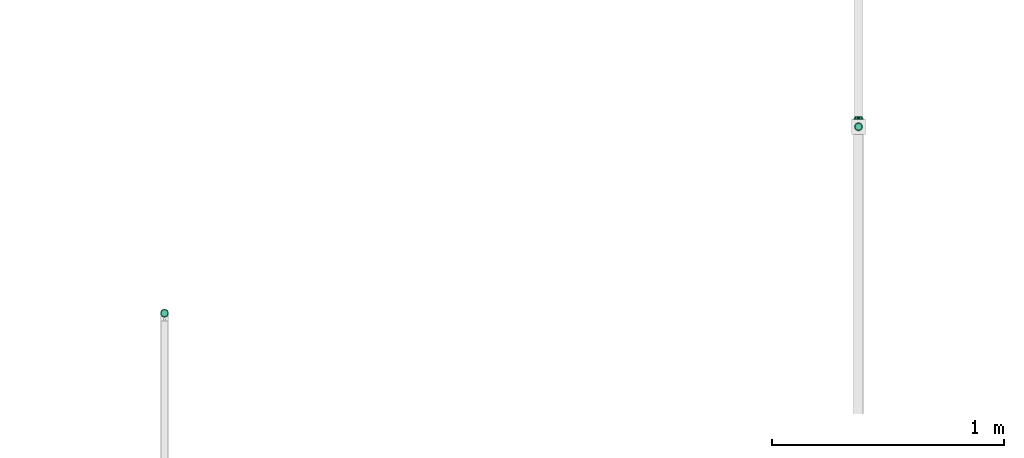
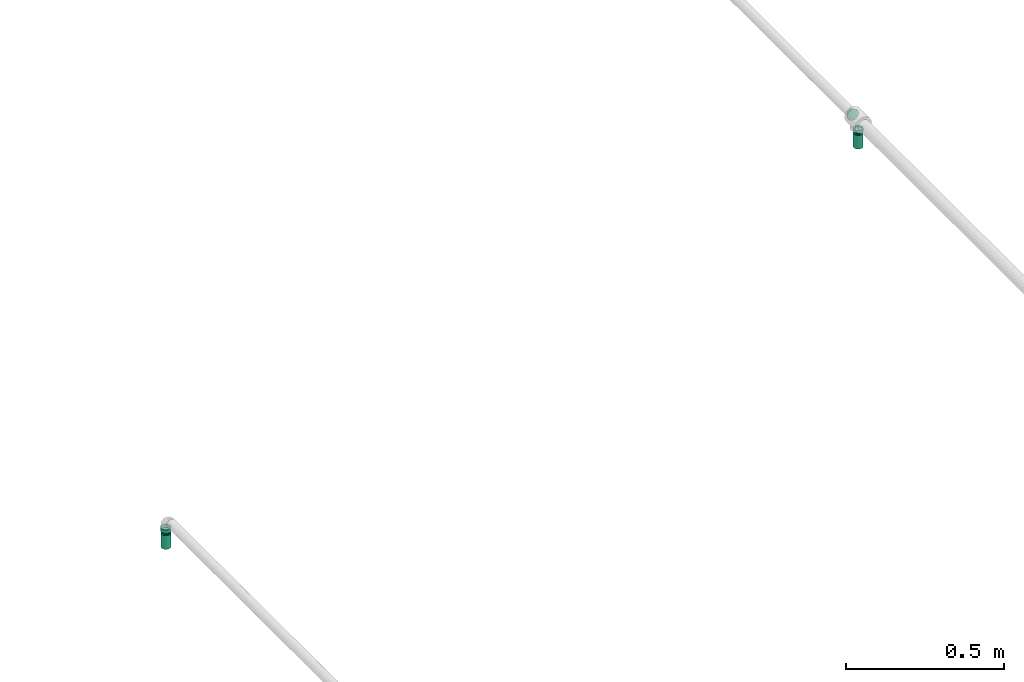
# One storey, part 5 of 17: 3 flow fittings, 2 flow segments, 2 flow terminals.
"""IFC2X3 building model written with IfcOpenShell, lengths in millimetres."""

from ifc_helpers import new_model, entity, si_unit, converted_unit, derived_unit, direction, frame, origin_with_axes, origin_2d_with_axis, place, context, subcontext, project, spatial, hollow_circle, extrude, open_shell, surface_model, source, transform, mapped, type_object, element, save


model = new_model("IFC2X3")

# Units and contexts
model_context = context("Model", 3, precision=0.01, world=frame((0.0, 4.29681676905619e-09, 0.0)), true_north=direction((4.01073788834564e-13, 1.0)))
plan_context = context("Plan", 3, precision=0.01, world=frame((0.0, 4.29681676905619e-09, 0.0)), true_north=direction((4.01073788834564e-13, 1.0)))
body_context = subcontext(model_context, "Body", "Model", "MODEL_VIEW")
ifc_project = project(units=[converted_unit("PLANEANGLEUNIT", "DEGREE", entity("IfcPositiveLengthMeasure", 0.0174532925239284), si_unit("PLANEANGLEUNIT", "RADIAN"), dimensions=[0, 0, 0, 0, 0, 0, 0]), si_unit("AREAUNIT", "SQUARE_METRE"), si_unit("LENGTHUNIT", "METRE", prefix="MILLI"), si_unit("MASSUNIT", "GRAM", prefix="KILO"), si_unit("POWERUNIT", "WATT"), si_unit("PRESSUREUNIT", "PASCAL"), si_unit("FORCEUNIT", "NEWTON", prefix="KILO"), si_unit("ELECTRICVOLTAGEUNIT", "VOLT"), si_unit("ELECTRICCURRENTUNIT", "AMPERE"), si_unit("THERMODYNAMICTEMPERATUREUNIT", "DEGREE_CELSIUS"), si_unit("TIMEUNIT", "SECOND"), si_unit("VOLUMEUNIT", "CUBIC_METRE"), derived_unit("LINEARVELOCITYUNIT", [(si_unit("LENGTHUNIT", "METRE"), 1), (si_unit("TIMEUNIT", "SECOND"), -1)]), derived_unit("VOLUMETRICFLOWRATEUNIT", [(si_unit("VOLUMEUNIT", "CUBIC_METRE"), 1), (si_unit("TIMEUNIT", "SECOND"), -1)]), derived_unit("THERMALTRANSMITTANCEUNIT", [(si_unit("POWERUNIT", "WATT"), 1), (si_unit("THERMODYNAMICTEMPERATUREUNIT", "KELVIN"), -1), (si_unit("AREAUNIT", "SQUARE_METRE"), -1)]), derived_unit("SOUNDPRESSUREUNIT", [(si_unit("PRESSUREUNIT", "PASCAL"), 1)])], contexts=[model_context, plan_context])

# Site, building, storey
site_placement = place(None, frame((0.0, -4.29681676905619e-09, 0.0), z_axis=(0.0, 0.0, 1.0), x_axis=(1.0, 0.0, 0.0)))
site = spatial("IfcSite", under=ifc_project, at=site_placement, Name="ENGM", CompositionType="ELEMENT")
building_placement = place(site_placement, frame((0.0, 4.29681676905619e-09, 0.0), z_axis=(0.0, 0.0, 1.0), x_axis=(1.0, 0.0, 0.0)))
building = spatial("IfcBuilding", under=site, at=building_placement, Name="TH", CompositionType="ELEMENT")
storey_placement = place(building_placement, frame((0.0, 0.0, 205200.0), z_axis=(0.0, 0.0, 1.0), x_axis=(1.0, 0.0, 0.0)))
storey = spatial("IfcBuildingStorey", under=building, at=storey_placement, Name="Nivå D + 1,2 m", CompositionType="ELEMENT", Elevation=205200.0)

# Flow fittings
pipe_fitting_type = type_object("IfcPipeFittingType", Name="magi_pipe_fe_reducer_centric_short_NOR", PredefinedType="TRANSITION")
shared_shape_1 = source(origin_with_axes(), body_context, "Body", "SurfaceModel", [
    surface_model("IfcShellBasedSurfaceModel", [(14.4, 5.35, -9.26647), (14.4, 0.0, -10.7), (14.4, 2.76936, -10.33541), (14.4, 10.33541, -2.76936), (14.4, 7.56604, -7.56604), (14.4, 9.26647, -5.35), (14.4, -5.35, -9.26647), (14.4, -2.76936, -10.33541), (14.4, -7.56604, -7.56604), (14.4, -10.33541, -2.76936), (14.4, -9.26647, -5.35), (14.4, 10.33541, 2.76936), (14.4, 9.26647, 5.35), (14.4, 7.56604, 7.56604), (14.4, 2.76936, 10.33541), (14.4, 5.35, 9.26647), (14.4, -7.56604, 7.56604), (14.4, -2.76936, 10.33541), (14.4, -5.35, 9.26647), (12.4, 7.56604, 7.56604), (12.4, 9.26647, 5.35), (12.4, 10.33541, 2.76936), (12.4, -2.76936, 10.33541), (12.4, -7.56604, 7.56604), (12.4, -5.35, 9.26647), (12.4, -10.33541, 2.76936), (12.4, -9.26647, 5.35), (12.4, 0.0, 10.7), (12.4, -10.33541, -2.76936), (12.4, -10.7, 0.0), (12.4, -5.35, -9.26647), (12.4, 0.0, -10.7), (12.4, -2.76936, -10.33541), (12.4, 2.76936, -10.33541), (12.4, 10.33541, -2.76936), (12.4, 10.7, 0.0), (12.4, -9.26647, -5.35), (12.4, -7.56604, -7.56604), (14.4, -10.7, 0.0), (12.4, 5.35, -9.26647), (12.4, 7.56604, -7.56604), (12.4, 9.26647, -5.35), (14.4, 10.7, 0.0), (12.4, 5.35, 9.26647), (12.4, 2.76936, 10.33541), (14.4, 0.0, 10.7), (14.4, -9.26647, 5.35), (14.4, -10.33541, 2.76936), (-2.0, 11.9501, 11.9501), (-2.0, 0.0, 16.9), (-2.0, 4.37404, 16.32415), (-2.0, 8.45, 14.63583), (-2.0, 14.63583, 8.45), (-2.0, 16.32415, 4.37404), (-2.0, -16.32415, 4.37404), (-2.0, -8.45, 14.63583), (-2.0, -14.63583, 8.45), (-2.0, -11.9501, 11.9501), (-2.0, -4.37404, 16.32415), (-2.0, -16.32415, -4.37404), (-2.0, -16.9, 0.0), (-2.0, -8.45, -14.63583), (-2.0, 16.32415, -4.37404), (-2.0, 11.9501, -11.9501), (-2.0, 14.63583, -8.45), (-2.0, 8.45, -14.63583), (-2.0, 4.37404, -16.32415), (-2.0, 0.0, -16.9), (-2.0, -11.9501, -11.9501), (-2.0, -14.63583, -8.45), (-2.0, -4.37404, -16.32415), (-2.0, 16.9, 0.0), (0.0, 4.37404, -16.32415), (0.0, 8.45, -14.63583), (0.0, 11.9501, -11.9501), (0.0, 0.0, -16.9), (0.0, 16.32415, -4.37404), (0.0, 16.32415, 4.37404), (0.0, 14.63583, -8.45), (0.0, -8.45, -14.63583), (0.0, -4.37404, -16.32415), (0.0, -11.9501, -11.9501), (0.0, -16.32415, -4.37404), (0.0, -14.63583, -8.45), (0.0, -16.32415, 4.37404), (0.0, 16.9, 0.0), (0.0, 14.63583, 8.45), (0.0, 11.9501, 11.9501), (0.0, 4.37404, 16.32415), (0.0, 8.45, 14.63583), (0.0, 0.0, 16.9), (0.0, -14.63583, 8.45), (0.0, -16.9, 0.0), (0.0, -8.45, 14.63583), (0.0, -11.9501, 11.9501), (0.0, -4.37404, 16.32415), (12.4, 9.3625, -2.31662), (0.0, 14.42505, -5.97505), (0.0, 15.66253, -2.98753), (12.4, -6.6875, -6.94985), (0.0, -13.18758, -8.96258), (0.0, 2.98753, -15.66253), (12.4, 0.0, -9.26647), (12.4, 6.6875, -6.94985), (0.0, 8.96258, -13.18758), (12.4, -9.3625, -2.31662), (0.0, -15.66253, -2.98753), (0.0, -14.42505, -5.97505), (0.0, 5.97505, -14.42505), (0.0, -2.98753, -15.66253), (0.0, -8.96258, -13.18758), (0.0, 13.18758, -8.96258), (12.4, 8.025, -4.63324), (12.4, -2.675, -9.26647), (12.4, 2.675, -9.26647), (0.0, -5.97505, -14.42505), (12.4, -8.025, -4.63324), (12.4, -9.3625, 2.31662), (0.0, -14.42505, 5.97505), (0.0, -15.66253, 2.98753), (12.4, 6.6875, 6.94985), (0.0, 13.18758, 8.96258), (0.0, -2.98753, 15.66253), (12.4, 0.0, 9.26647), (12.4, -6.6875, 6.94985), (0.0, -8.96258, 13.18758), (12.4, 9.3625, 2.31662), (0.0, 15.66253, 2.98753), (0.0, 14.42505, 5.97505), (0.0, -5.97505, 14.42505), (0.0, 2.98753, 15.66253), (0.0, 8.96258, 13.18758), (0.0, -13.18758, 8.96258), (12.4, -8.025, 4.63324), (12.4, 2.675, 9.26647), (12.4, -2.675, 9.26647), (0.0, 5.97505, 14.42505), (12.4, 8.025, 4.63324)], [open_shell([[[0, 1, 2]], [[3, 0, 4]], [[3, 4, 5]], [[1, 6, 7]], [[1, 0, 6]], [[8, 9, 10]], [[9, 8, 6]], [[11, 12, 13]], [[14, 13, 15]], [[16, 17, 18]], [[19, 20, 21]], [[22, 23, 24]], [[23, 22, 25]], [[23, 25, 26]], [[22, 27, 25]], [[25, 28, 29]], [[30, 31, 32]], [[30, 28, 33]], [[33, 31, 30]], [[34, 21, 35]], [[28, 9, 29]], [[36, 10, 28]], [[6, 37, 30]], [[36, 37, 8]], [[7, 30, 32]], [[28, 10, 9]], [[9, 38, 29]], [[7, 6, 30]], [[8, 37, 6]], [[8, 10, 36]], [[1, 7, 32]], [[32, 31, 1]], [[33, 2, 31]], [[39, 0, 33]], [[5, 40, 41]], [[39, 40, 4]], [[3, 41, 34]], [[39, 4, 0]], [[0, 2, 33]], [[42, 3, 34]], [[5, 41, 3]], [[5, 4, 40]], [[35, 42, 34]], [[31, 2, 1]], [[21, 11, 35]], [[20, 12, 21]], [[15, 19, 43]], [[20, 19, 13]], [[14, 43, 44]], [[21, 12, 11]], [[11, 42, 35]], [[14, 15, 43]], [[13, 19, 15]], [[13, 12, 20]], [[45, 14, 44]], [[44, 27, 45]], [[22, 17, 27]], [[24, 18, 22]], [[46, 23, 26]], [[24, 23, 16]], [[47, 26, 25]], [[24, 16, 18]], [[18, 17, 22]], [[38, 47, 25]], [[46, 26, 47]], [[46, 16, 23]], [[29, 38, 25]], [[27, 17, 45]], [[48, 49, 50]], [[48, 50, 51]], [[48, 52, 53]], [[48, 53, 49]], [[49, 53, 54]], [[55, 56, 57]], [[55, 58, 49]], [[56, 55, 49]], [[49, 54, 56]], [[54, 59, 60]], [[54, 53, 61]], [[53, 62, 63]], [[63, 62, 64]], [[63, 65, 66]], [[61, 53, 63]], [[67, 63, 66]], [[59, 68, 69]], [[68, 59, 61]], [[61, 67, 70]], [[59, 54, 61]], [[63, 67, 61]], [[53, 71, 62]], [[72, 73, 74]], [[75, 72, 74]], [[74, 76, 77]], [[76, 74, 78]], [[74, 77, 79]], [[75, 79, 80]], [[75, 74, 79]], [[81, 82, 83]], [[82, 81, 79]], [[79, 84, 82]], [[77, 76, 85]], [[77, 86, 87]], [[77, 87, 88]], [[88, 84, 79]], [[88, 87, 89]], [[84, 88, 90]], [[90, 91, 84]], [[92, 82, 84]], [[91, 93, 94]], [[91, 90, 93]], [[93, 90, 95]], [[79, 77, 88]], [[59, 82, 60]], [[69, 83, 59]], [[79, 68, 61]], [[69, 68, 81]], [[80, 61, 70]], [[59, 83, 82]], [[82, 92, 60]], [[80, 79, 61]], [[81, 68, 79]], [[81, 83, 69]], [[75, 80, 70]], [[70, 67, 75]], [[66, 72, 67]], [[65, 73, 66]], [[78, 63, 64]], [[65, 63, 74]], [[76, 64, 62]], [[65, 74, 73]], [[73, 72, 66]], [[85, 76, 62]], [[78, 64, 76]], [[78, 74, 63]], [[71, 85, 62]], [[67, 72, 75]], [[53, 77, 71]], [[52, 86, 53]], [[89, 48, 51]], [[52, 48, 87]], [[88, 51, 50]], [[53, 86, 77]], [[77, 85, 71]], [[88, 89, 51]], [[87, 48, 89]], [[87, 86, 52]], [[90, 88, 50]], [[50, 49, 90]], [[58, 95, 49]], [[55, 93, 58]], [[91, 57, 56]], [[55, 57, 94]], [[84, 56, 54]], [[55, 94, 93]], [[93, 95, 58]], [[92, 84, 54]], [[91, 56, 84]], [[91, 94, 57]], [[60, 92, 54]], [[49, 95, 90]], [[43, 24, 35]], [[35, 24, 30]], [[30, 39, 35]], [[30, 24, 29]], [[87, 74, 92]], [[75, 92, 74]], [[81, 92, 75]], [[74, 87, 85]], [[96, 97, 98]], [[81, 99, 100]], [[101, 102, 75]], [[98, 85, 35]], [[74, 103, 104]], [[104, 103, 39]], [[105, 106, 107]], [[39, 108, 104]], [[102, 109, 75]], [[110, 99, 81]], [[35, 96, 98]], [[103, 111, 112]], [[109, 102, 113]], [[29, 92, 106]], [[102, 101, 114]], [[110, 115, 30]], [[96, 112, 97]], [[107, 116, 105]], [[29, 106, 105]], [[113, 115, 109]], [[30, 115, 113]], [[116, 107, 100]], [[108, 39, 114]], [[111, 103, 74]], [[111, 97, 112]], [[99, 110, 30]], [[116, 100, 99]], [[101, 108, 114]], [[117, 118, 119]], [[87, 120, 121]], [[122, 123, 90]], [[119, 92, 29]], [[94, 124, 125]], [[125, 124, 24]], [[126, 127, 128]], [[24, 129, 125]], [[123, 130, 90]], [[131, 120, 87]], [[29, 117, 119]], [[124, 132, 133]], [[130, 123, 134]], [[35, 85, 127]], [[123, 122, 135]], [[131, 136, 43]], [[117, 133, 118]], [[128, 137, 126]], [[35, 127, 126]], [[134, 136, 130]], [[43, 136, 134]], [[137, 128, 121]], [[129, 24, 135]], [[132, 124, 94]], [[132, 118, 133]], [[120, 131, 43]], [[137, 121, 120]], [[122, 129, 135]], [[6, 0, 3]], [[46, 6, 3]], [[6, 46, 9]], [[11, 3, 42]], [[3, 13, 46]], [[14, 45, 13]], [[46, 13, 45]], [[9, 47, 38]], [[46, 47, 9]], [[17, 16, 46]], [[45, 17, 46]], [[3, 11, 13]], [[27, 44, 43]], [[27, 43, 19]], [[27, 19, 25]], [[34, 25, 19]], [[34, 19, 21]], [[28, 25, 34]], [[33, 34, 41]], [[40, 39, 33]], [[40, 33, 41]], [[28, 34, 33]], [[28, 37, 36]], [[37, 28, 30]], [[90, 87, 92]], [[92, 94, 90]]])]),
])
for number, where, z_axis, x_axis, name in (
    (1, (899432.08103, 477870.89813, 4399.29618), (0.0, -1.0, 0.0), (0.0, 0.0, -1.0), "magi_pipe_fe_reducer_centric_short_NOR"),
    (2, (902429.75707, 478676.11818, 4409.98869), (0.0, -1.0, 0.0), (0.0, 0.0, -1.0), "magi_pipe_fe_reducer_centric_short_NOR"),
):
    element("IfcFlowFitting", number, at=place(storey_placement, frame(where, z_axis=z_axis, x_axis=x_axis)), inside=storey, type_object=pipe_fitting_type, Name=name, context=body_context, shape_type="MappedRepresentation", body=[
        mapped(shared_shape_1, transform((0.0, 0.0, 0.0), scale=1.0)),
    ])
shared_shape_2 = source(origin_with_axes(), body_context, "Body", "SurfaceModel", [
    surface_model("IfcShellBasedSurfaceModel", [(10.6, 4.37404, -16.32415), (10.6, 8.45, -14.63583), (10.6, 11.9501, -11.9501), (10.6, -8.45, -14.63583), (10.6, 16.32415, -4.37404), (10.6, 16.32415, 4.37404), (10.6, 14.63583, -8.45), (10.6, 0.0, -16.9), (10.6, -4.37404, -16.32415), (10.6, -11.9501, -11.9501), (10.6, -16.32415, -4.37404), (10.6, -14.63583, -8.45), (10.6, -16.32415, 4.37404), (10.6, 16.9, 0.0), (10.6, 14.63583, 8.45), (10.6, 11.9501, 11.9501), (10.6, 4.37404, 16.32415), (10.6, 8.45, 14.63583), (10.6, 0.0, 16.9), (10.6, -14.63583, 8.45), (10.6, -16.9, 0.0), (10.6, -8.45, 14.63583), (10.6, -11.9501, 11.9501), (10.6, -4.37404, 16.32415), (8.6, 4.37404, 16.32415), (8.6, -14.63583, 8.45), (8.6, 0.0, 16.9), (8.6, 16.32415, 4.37404), (8.6, 8.45, 14.63583), (8.6, 11.9501, 11.9501), (8.6, 14.63583, 8.45), (8.6, -8.45, 14.63583), (8.6, -11.9501, 11.9501), (8.6, -4.37404, 16.32415), (8.6, -16.32415, 4.37404), (8.6, -16.32415, -4.37404), (8.6, -16.9, 0.0), (8.6, -8.45, -14.63583), (8.6, 16.32415, -4.37404), (8.6, 11.9501, -11.9501), (8.6, 14.63583, -8.45), (8.6, 8.45, -14.63583), (8.6, 4.37404, -16.32415), (8.6, 0.0, -16.9), (8.6, -11.9501, -11.9501), (8.6, -14.63583, -8.45), (8.6, -4.37404, -16.32415), (8.6, 16.9, 0.0), (-2.0, 0.0, 21.2), (-2.0, 5.48696, 20.47763), (-2.0, 10.6, 18.35974), (-2.0, 14.99066, 14.99066), (-2.0, 18.35974, 10.6), (-2.0, 20.47763, 5.48696), (-2.0, -21.2, 0.0), (-2.0, -14.99066, -14.99066), (-2.0, -5.48696, 20.47763), (-2.0, -14.99066, 14.99066), (-2.0, -10.6, 18.35974), (-2.0, -18.35974, 10.6), (-2.0, -20.47763, 5.48696), (-2.0, 20.47763, -5.48696), (-2.0, 10.6, -18.35974), (-2.0, 14.99066, -14.99066), (-2.0, 18.35974, -10.6), (-2.0, 5.48696, -20.47763), (-2.0, 0.0, -21.2), (-2.0, -18.35974, -10.6), (-2.0, -20.47763, -5.48696), (-2.0, -10.6, -18.35974), (-2.0, -5.48696, -20.47763), (-2.0, 21.2, 0.0), (0.0, 10.6, -18.35974), (0.0, 0.0, -21.2), (0.0, 5.48696, -20.47763), (0.0, 20.47763, -5.48696), (0.0, 14.99066, -14.99066), (0.0, -21.2, 0.0), (0.0, -14.99066, -14.99066), (0.0, 18.35974, -10.6), (0.0, -10.6, -18.35974), (0.0, -5.48696, -20.47763), (0.0, -18.35974, -10.6), (0.0, -20.47763, -5.48696), (0.0, -18.35974, 10.6), (0.0, 21.2, 0.0), (0.0, 20.47763, 5.48696), (0.0, 18.35974, 10.6), (0.0, 14.99066, 14.99066), (0.0, 0.0, 21.2), (0.0, 10.6, 18.35974), (0.0, 5.48696, 20.47763), (0.0, -14.99066, 14.99066), (0.0, -20.47763, 5.48696), (0.0, -5.48696, 20.47763), (0.0, -10.6, 18.35974), (0.0, 6.55116, 20.1624), (0.0, 17.15116, 12.46105), (0.0, -17.15116, 12.46105), (0.0, -6.55116, 20.1624), (0.0, 6.55116, -20.1624), (0.0, 17.15116, -12.46105), (0.0, -6.55116, -20.1624), (0.0, -17.15116, -12.46105), (8.6, -13.18758, -8.96258), (0.0, 11.85116, -16.31172), (0.0, 14.50116, -14.38638), (8.6, -14.42505, -5.97505), (0.0, -19.17558, -6.23052), (0.0, -18.16337, -9.34579), (8.6, 5.97505, -14.42505), (8.6, 14.42505, -5.97505), (0.0, 19.17558, -6.23052), (0.0, 0.0, -20.1624), (8.6, 2.98753, -15.66253), (8.6, 13.18758, -8.96258), (8.6, -2.98753, -15.66253), (8.6, 15.66253, -2.98753), (8.6, -15.66253, -2.98753), (0.0, -11.85116, -16.31172), (8.6, -5.97505, -14.42505), (8.6, -8.96258, -13.18758), (8.6, 8.96258, -13.18758), (8.6, 13.18758, 8.96258), (0.0, -11.85116, 16.31172), (0.0, -14.50116, 14.38638), (8.6, 14.42505, 5.97505), (0.0, 19.17558, 6.23052), (0.0, 18.16337, 9.34579), (8.6, -5.97505, 14.42505), (8.6, -14.42505, 5.97505), (0.0, -19.17558, 6.23052), (0.0, 0.0, 20.1624), (8.6, -2.98753, 15.66253), (8.6, -13.18758, 8.96258), (8.6, 2.98753, 15.66253), (8.6, -15.66253, 2.98753), (8.6, 15.66253, 2.98753), (0.0, 11.85116, 16.31172), (8.6, 5.97505, 14.42505), (8.6, 8.96258, 13.18758), (8.6, -8.96258, 13.18758)], [open_shell([[[0, 1, 2]], [[3, 0, 2]], [[2, 4, 5]], [[4, 2, 6]], [[2, 5, 3]], [[7, 3, 8]], [[7, 0, 3]], [[9, 10, 11]], [[10, 9, 3]], [[3, 12, 10]], [[5, 4, 13]], [[5, 14, 15]], [[5, 15, 16]], [[16, 12, 3]], [[16, 15, 17]], [[12, 16, 18]], [[18, 19, 12]], [[20, 10, 12]], [[19, 21, 22]], [[19, 18, 21]], [[21, 18, 23]], [[3, 5, 16]], [[24, 25, 26]], [[27, 24, 28]], [[29, 30, 27]], [[29, 27, 28]], [[25, 24, 27]], [[31, 25, 32]], [[31, 33, 26]], [[26, 25, 31]], [[34, 25, 27]], [[34, 35, 36]], [[34, 27, 37]], [[27, 38, 39]], [[39, 38, 40]], [[39, 41, 42]], [[37, 27, 39]], [[42, 43, 39]], [[35, 44, 45]], [[44, 35, 37]], [[37, 43, 46]], [[35, 34, 37]], [[39, 43, 37]], [[38, 27, 47]], [[35, 10, 36]], [[45, 11, 35]], [[3, 44, 37]], [[45, 44, 9]], [[8, 37, 46]], [[35, 11, 10]], [[10, 20, 36]], [[8, 3, 37]], [[9, 44, 3]], [[9, 11, 45]], [[7, 8, 46]], [[46, 43, 7]], [[42, 0, 43]], [[41, 1, 42]], [[6, 39, 40]], [[41, 39, 2]], [[4, 40, 38]], [[41, 2, 1]], [[1, 0, 42]], [[13, 4, 38]], [[6, 40, 4]], [[6, 2, 39]], [[47, 13, 38]], [[43, 0, 7]], [[27, 5, 47]], [[30, 14, 27]], [[17, 29, 28]], [[30, 29, 15]], [[16, 28, 24]], [[27, 14, 5]], [[5, 13, 47]], [[16, 17, 28]], [[15, 29, 17]], [[15, 14, 30]], [[18, 16, 24]], [[24, 26, 18]], [[33, 23, 26]], [[31, 21, 33]], [[19, 32, 25]], [[31, 32, 22]], [[12, 25, 34]], [[31, 22, 21]], [[21, 23, 33]], [[20, 12, 34]], [[19, 25, 12]], [[19, 22, 32]], [[36, 20, 34]], [[26, 23, 18]], [[48, 49, 50]], [[48, 50, 51]], [[51, 52, 53]], [[51, 53, 48]], [[54, 48, 55]], [[56, 57, 58]], [[56, 48, 57]], [[59, 54, 60]], [[57, 48, 59]], [[48, 54, 59]], [[48, 53, 55]], [[53, 61, 62]], [[63, 61, 64]], [[55, 53, 62]], [[62, 61, 63]], [[65, 66, 62]], [[54, 67, 68]], [[55, 67, 54]], [[69, 66, 70]], [[69, 55, 62]], [[66, 69, 62]], [[61, 53, 71]], [[72, 73, 74]], [[75, 72, 76]], [[77, 78, 72]], [[75, 76, 79]], [[75, 77, 72]], [[73, 80, 81]], [[73, 72, 80]], [[82, 77, 83]], [[80, 72, 78]], [[82, 78, 77]], [[84, 75, 85]], [[86, 87, 88]], [[86, 88, 89]], [[90, 91, 89]], [[90, 89, 88]], [[86, 89, 92]], [[77, 84, 93]], [[75, 84, 77]], [[92, 94, 95]], [[84, 86, 92]], [[89, 94, 92]], [[84, 85, 86]], [[68, 83, 54]], [[67, 82, 68]], [[80, 55, 69]], [[67, 55, 78]], [[81, 69, 70]], [[68, 82, 83]], [[83, 77, 54]], [[81, 80, 69]], [[78, 55, 80]], [[78, 82, 67]], [[73, 81, 70]], [[70, 66, 73]], [[65, 74, 66]], [[62, 72, 65]], [[79, 63, 64]], [[62, 63, 76]], [[75, 64, 61]], [[62, 76, 72]], [[72, 74, 65]], [[85, 75, 61]], [[79, 64, 75]], [[79, 76, 63]], [[71, 85, 61]], [[66, 74, 73]], [[53, 86, 71]], [[52, 87, 53]], [[90, 51, 50]], [[52, 51, 88]], [[91, 50, 49]], [[53, 87, 86]], [[86, 85, 71]], [[91, 90, 50]], [[88, 51, 90]], [[88, 87, 52]], [[89, 91, 49]], [[49, 48, 89]], [[56, 94, 48]], [[58, 95, 56]], [[84, 57, 59]], [[58, 57, 92]], [[93, 59, 60]], [[58, 92, 95]], [[95, 94, 56]], [[77, 93, 60]], [[84, 59, 93]], [[84, 92, 57]], [[54, 77, 60]], [[48, 94, 89]], [[26, 32, 29]], [[47, 29, 32]], [[32, 43, 47]], [[43, 32, 44]], [[39, 47, 43]], [[44, 32, 36]], [[96, 97, 98]], [[96, 98, 99]], [[98, 97, 77]], [[97, 100, 77]], [[100, 97, 101]], [[77, 102, 103]], [[77, 100, 102]], [[101, 97, 85]], [[103, 44, 104]], [[39, 105, 106]], [[107, 108, 109]], [[105, 110, 100]], [[39, 106, 101]], [[111, 101, 112]], [[113, 114, 43]], [[101, 111, 115]], [[113, 116, 102]], [[85, 117, 112]], [[77, 118, 36]], [[44, 103, 119]], [[119, 120, 121]], [[77, 108, 118]], [[116, 113, 43]], [[100, 110, 114]], [[116, 120, 102]], [[100, 114, 113]], [[122, 110, 105]], [[117, 85, 47]], [[107, 118, 108]], [[103, 104, 109]], [[104, 107, 109]], [[39, 101, 115]], [[120, 119, 102]], [[121, 44, 119]], [[117, 111, 112]], [[105, 39, 122]], [[97, 29, 123]], [[32, 124, 125]], [[126, 127, 128]], [[124, 129, 99]], [[32, 125, 98]], [[130, 98, 131]], [[132, 133, 26]], [[98, 130, 134]], [[132, 135, 96]], [[77, 136, 131]], [[85, 137, 47]], [[29, 97, 138]], [[138, 139, 140]], [[85, 127, 137]], [[135, 132, 26]], [[99, 129, 133]], [[135, 139, 96]], [[99, 133, 132]], [[141, 129, 124]], [[136, 77, 36]], [[126, 137, 127]], [[97, 123, 128]], [[123, 126, 128]], [[32, 98, 134]], [[139, 138, 96]], [[140, 29, 138]], [[136, 130, 131]], [[124, 32, 141]]])]),
])
flow_fitting_placement = place(storey_placement, frame((902429.75707, 478709.91818, 4450.0), z_axis=(0.0, 0.0, 1.0), x_axis=(0.0, 1.0, 0.0)))
element("IfcFlowFitting", 3, at=flow_fitting_placement, inside=storey, type_object=pipe_fitting_type, Name="magi_pipe_fe_reducer_centric_short_NOR", context=body_context, shape_type="MappedRepresentation", body=[
    mapped(shared_shape_2, transform((0.0, 0.0, 0.0), scale=1.0)),
])

# Flow segments
pipe_segment_type = type_object("IfcPipeSegmentType", Name="Stålrør normaltykke", PredefinedType="RIGIDSEGMENT")
shared_shape_3 = source(origin_with_axes(), body_context, "Body", "SweptSolid", [
    extrude(hollow_circle(Radius=16.9, WallThickness=2.0, at=origin_2d_with_axis()), frame((0.0, 0.0, 0.0), z_axis=(1.0, 0.0, 0.0), x_axis=(0.0, 1.0, 0.0)), (0.0, 0.0, 1.0), 13.4),
])
flow_segment_1_placement = place(storey_placement, frame((899432.08103, 477870.89813, 4412.74603000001), z_axis=(0.0, -1.0, 0.0), x_axis=(0.0, 0.0, -1.0)))
element("IfcFlowSegment", 4, at=flow_segment_1_placement, inside=storey, type_object=pipe_segment_type, Name="Stålrør normaltykke", context=body_context, shape_type="MappedRepresentation", body=[
    mapped(shared_shape_3, transform((0.0, 0.0, 0.0), scale=1.0)),
])
shared_shape_4 = source(origin_with_axes(), body_context, "Body", "SweptSolid", [
    extrude(hollow_circle(Radius=16.9, WallThickness=2.0, at=origin_2d_with_axis()), frame((0.0, 0.0, 0.0), z_axis=(1.0, 0.0, 0.0), x_axis=(0.0, 1.0, 0.0)), (0.0, 0.0, 1.0), 8.2),
])
flow_segment_2_placement = place(storey_placement, frame((902429.75707, 478676.11818, 4418.20000000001), z_axis=(0.0, -1.0, 0.0), x_axis=(0.0, 0.0, -1.0)))
element("IfcFlowSegment", 5, at=flow_segment_2_placement, inside=storey, type_object=pipe_segment_type, Name="Stålrør normaltykke", context=body_context, shape_type="MappedRepresentation", body=[
    mapped(shared_shape_4, transform((0.0, 0.0, 0.0), scale=1.0)),
])

# Flow terminals
fire_suppression_terminal_type = type_object("IfcFireSuppressionTerminalType", Name="SP-15-K80-68DGR-STD-NEDOVER", PredefinedType="NOTDEFINED")
shared_shape_5 = source(origin_with_axes(), body_context, "Body", "SurfaceModel", [
    surface_model("IfcShellBasedSurfaceModel", [(4.1411, -15.45481, 53.0), (8.0, -13.85641, 53.0), (11.31371, -11.31371, 53.0), (-8.0, -13.85641, 53.0), (15.45481, -4.1411, 53.0), (16.0, 0.0, 53.0), (13.85641, -8.0, 53.0), (0.0, -16.0, 53.0), (-4.1411, -15.45481, 53.0), (-13.85641, -8.0, 53.0), (-11.31371, -11.31371, 53.0), (-15.45481, -4.1411, 53.0), (15.45481, 4.1411, 53.0), (13.85641, 8.0, 53.0), (11.31371, 11.31371, 53.0), (-4.1411, 15.45481, 53.0), (8.0, 13.85641, 53.0), (4.1411, 15.45481, 53.0), (0.0, 16.0, 53.0), (-13.85641, 8.0, 53.0), (-15.45481, 4.1411, 53.0), (-16.0, 0.0, 53.0), (-11.31371, 11.31371, 53.0), (-8.0, 13.85641, 53.0), (0.0, 16.0, 0.0), (4.1411, 15.45481, 0.0), (8.0, 13.85641, 0.0), (-4.1411, 15.45481, 0.0), (11.31371, 11.31371, 0.0), (13.85641, 8.0, 0.0), (15.45481, 4.1411, 0.0), (-15.45481, -4.1411, 0.0), (-11.31371, 11.31371, 0.0), (-8.0, 13.85641, 0.0), (-13.85641, 8.0, 0.0), (-15.45481, 4.1411, 0.0), (-16.0, 0.0, 0.0), (4.1411, -15.45481, 0.0), (16.0, 0.0, 0.0), (15.45481, -4.1411, 0.0), (13.85641, -8.0, 0.0), (11.31371, -11.31371, 0.0), (8.0, -13.85641, 0.0), (-8.0, -13.85641, 0.0), (-13.85641, -8.0, 0.0), (-11.31371, -11.31371, 0.0), (0.0, -16.0, 0.0), (-4.1411, -15.45481, 0.0)], [open_shell([[[0, 1, 2]], [[3, 0, 2]], [[4, 5, 2]], [[4, 2, 6]], [[3, 2, 5]], [[7, 3, 8]], [[7, 0, 3]], [[3, 9, 10]], [[9, 3, 11]], [[5, 11, 3]], [[5, 12, 11]], [[12, 13, 14]], [[15, 12, 14]], [[16, 17, 18]], [[14, 16, 15]], [[18, 15, 16]], [[11, 19, 20]], [[21, 11, 20]], [[22, 15, 23]], [[15, 22, 19]], [[19, 11, 15]], [[11, 12, 15]], [[24, 25, 26]], [[27, 24, 26]], [[28, 29, 30]], [[27, 26, 28]], [[27, 28, 31]], [[27, 32, 33]], [[32, 27, 34]], [[34, 31, 35]], [[31, 34, 27]], [[35, 31, 36]], [[28, 30, 31]], [[37, 38, 39]], [[37, 39, 40]], [[41, 42, 37]], [[41, 37, 40]], [[38, 37, 43]], [[44, 43, 45]], [[43, 44, 31]], [[43, 46, 47]], [[43, 31, 38]], [[37, 46, 43]], [[38, 31, 30]], [[11, 31, 44]], [[45, 9, 44]], [[3, 43, 47]], [[45, 43, 10]], [[8, 47, 46]], [[31, 21, 36]], [[31, 11, 21]], [[44, 9, 11]], [[45, 10, 9]], [[3, 10, 43]], [[47, 8, 3]], [[46, 7, 8]], [[0, 37, 42]], [[41, 1, 42]], [[6, 40, 39]], [[41, 40, 2]], [[4, 39, 38]], [[37, 0, 7]], [[42, 1, 0]], [[41, 2, 1]], [[40, 6, 2]], [[4, 6, 39]], [[38, 5, 4]], [[37, 7, 46]], [[12, 38, 30]], [[13, 30, 29]], [[16, 26, 25]], [[17, 25, 24]], [[30, 13, 12]], [[12, 5, 38]], [[28, 14, 13]], [[28, 26, 14]], [[14, 26, 16]], [[25, 17, 16]], [[28, 13, 29]], [[24, 18, 17]], [[15, 27, 33]], [[32, 23, 33]], [[19, 34, 35]], [[32, 34, 22]], [[20, 35, 36]], [[27, 15, 18]], [[33, 23, 15]], [[32, 22, 23]], [[34, 19, 22]], [[20, 19, 35]], [[36, 21, 20]], [[27, 18, 24]]])]),
])
for number, where, z_axis, x_axis in (
    (6, (902429.75707, 478676.11818, 4400.63669000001), (0.0, 0.0, -1.0), (-0.999992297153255, 0.00392500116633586, 0.0)),
    (7, (899432.08103, 477870.89813, 4389.94417999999), (0.0, 0.0, -1.0), (-0.999999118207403, 0.00132800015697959, 0.0)),
):
    element("IfcFlowTerminal", number, at=place(storey_placement, frame(where, z_axis=z_axis, x_axis=x_axis)), inside=storey, type_object=fire_suppression_terminal_type, Name="SP-15-K80-68DGR-STD-NEDOVER", context=body_context, shape_type="MappedRepresentation", body=[
        mapped(shared_shape_5, transform((0.0, 0.0, 0.0), scale=1.0)),
    ])

save(model, "model.ifc")
